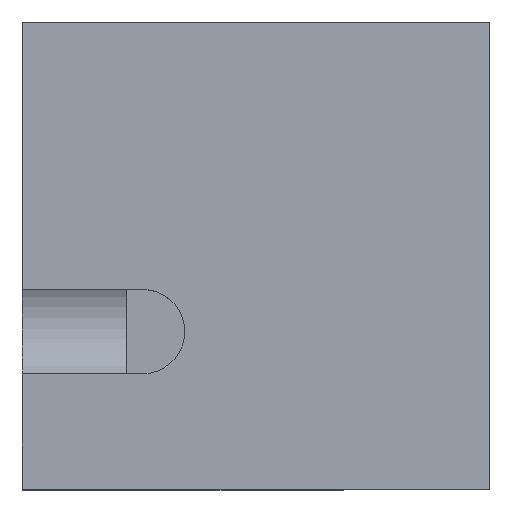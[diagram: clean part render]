
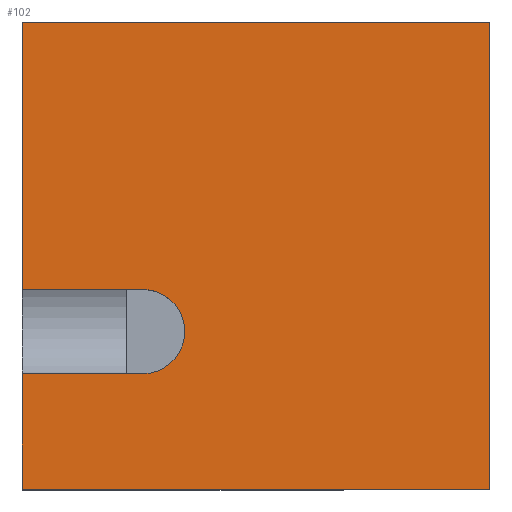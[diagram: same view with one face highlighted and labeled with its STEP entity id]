
A CAD part, top view. The second image highlights one B-rep face of the part: STEP entity #102.
In plain terms, the highlighted planar face has unit normal (0, 0, 1).
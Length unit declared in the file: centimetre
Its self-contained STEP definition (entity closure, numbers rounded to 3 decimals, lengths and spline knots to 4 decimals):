
#2 = CARTESIAN_POINT ( 'NONE',  ( 0., 247.1862, 1000. ) ) ;
#11 = DIRECTION ( 'NONE',  ( 1., 0., 0. ) ) ;
#35 = VECTOR ( 'NONE', #92, 100. ) ;
#36 = VECTOR ( 'NONE', #144, 100. ) ;
#41 = DIRECTION ( 'NONE',  ( -1., 0., 0. ) ) ;
#51 = LINE ( 'NONE', #450, #104 ) ;
#65 = CARTESIAN_POINT ( 'NONE',  ( 1000., 1000., 1000. ) ) ;
#79 = LINE ( 'NONE', #65, #263 ) ;
#80 = AXIS2_PLACEMENT_3D ( 'NONE', #135, #413, #138 ) ;
#92 = DIRECTION ( 'NONE',  ( 0., -1., 0. ) ) ;
#102 = ADVANCED_FACE ( 'NONE', ( #727 ), #742, .T. ) ;
#104 = VECTOR ( 'NONE', #576, 100. ) ;
#116 = EDGE_CURVE ( 'NONE', #845, #813, #79, .T. ) ;
#117 = LINE ( 'NONE', #509, #472 ) ;
#126 = CARTESIAN_POINT ( 'NONE',  ( 0., 1000., 1000. ) ) ;
#130 = LINE ( 'NONE', #599, #36 ) ;
#132 = ORIENTED_EDGE ( 'NONE', *, *, #605, .T. ) ;
#135 = CARTESIAN_POINT ( 'NONE',  ( 257.6555, 337.3262, 1000. ) ) ;
#138 = DIRECTION ( 'NONE',  ( 1., 0., 0. ) ) ;
#144 = DIRECTION ( 'NONE',  ( 1., 0., 0. ) ) ;
#148 = EDGE_CURVE ( 'NONE', #165, #204, #130, .T. ) ;
#152 = EDGE_CURVE ( 'NONE', #204, #325, #610, .T. ) ;
#165 = VERTEX_POINT ( 'NONE', #2 ) ;
#179 = ORIENTED_EDGE ( 'NONE', *, *, #590, .T. ) ;
#181 = ORIENTED_EDGE ( 'NONE', *, *, #630, .T. ) ;
#204 = VERTEX_POINT ( 'NONE', #280 ) ;
#255 = CARTESIAN_POINT ( 'NONE',  ( 0., 1000., 1000. ) ) ;
#263 = VECTOR ( 'NONE', #340, 100. ) ;
#264 = DIRECTION ( 'NONE',  ( 0., 0., 1. ) ) ;
#280 = CARTESIAN_POINT ( 'NONE',  ( 257.6555, 247.1862, 1000. ) ) ;
#282 = VERTEX_POINT ( 'NONE', #502 ) ;
#296 = CARTESIAN_POINT ( 'NONE',  ( 347.7956, 337.3262, 1000. ) ) ;
#302 = LINE ( 'NONE', #570, #412 ) ;
#312 = DIRECTION ( 'NONE',  ( 1., 0., 0. ) ) ;
#325 = VERTEX_POINT ( 'NONE', #296 ) ;
#339 = VECTOR ( 'NONE', #501, 100. ) ;
#340 = DIRECTION ( 'NONE',  ( 0., 1., 0. ) ) ;
#395 = VERTEX_POINT ( 'NONE', #126 ) ;
#397 = ORIENTED_EDGE ( 'NONE', *, *, #116, .T. ) ;
#407 = ORIENTED_EDGE ( 'NONE', *, *, #491, .T. ) ;
#412 = VECTOR ( 'NONE', #838, 100. ) ;
#413 = DIRECTION ( 'NONE',  ( 0., 0., 1. ) ) ;
#416 = EDGE_CURVE ( 'NONE', #325, #739, #711, .T. ) ;
#417 = EDGE_LOOP ( 'NONE', ( #860, #859, #715, #657, #132, #179, #397, #407, #181 ) ) ;
#425 = LINE ( 'NONE', #698, #35 ) ;
#450 = CARTESIAN_POINT ( 'NONE',  ( 0., 1000., 1000. ) ) ;
#472 = VECTOR ( 'NONE', #41, 100. ) ;
#491 = EDGE_CURVE ( 'NONE', #813, #395, #856, .T. ) ;
#501 = DIRECTION ( 'NONE',  ( -1., 0., 0. ) ) ;
#502 = CARTESIAN_POINT ( 'NONE',  ( 0., 427.4662, 1000. ) ) ;
#509 = CARTESIAN_POINT ( 'NONE',  ( 257.6555, 427.4662, 1000. ) ) ;
#513 = CARTESIAN_POINT ( 'NONE',  ( 257.6555, 427.4662, 1000. ) ) ;
#570 = CARTESIAN_POINT ( 'NONE',  ( 0., 0., 1000. ) ) ;
#576 = DIRECTION ( 'NONE',  ( 0., -1., 0. ) ) ;
#579 = CARTESIAN_POINT ( 'NONE',  ( 1000., 0., 1000. ) ) ;
#590 = EDGE_CURVE ( 'NONE', #613, #845, #302, .T. ) ;
#599 = CARTESIAN_POINT ( 'NONE',  ( 0., 247.1862, 1000. ) ) ;
#605 = EDGE_CURVE ( 'NONE', #165, #613, #425, .T. ) ;
#610 = CIRCLE ( 'NONE', #80, 90.14 ) ;
#613 = VERTEX_POINT ( 'NONE', #627 ) ;
#623 = AXIS2_PLACEMENT_3D ( 'NONE', #790, #647, #312 ) ;
#627 = CARTESIAN_POINT ( 'NONE',  ( 0., 0., 1000. ) ) ;
#630 = EDGE_CURVE ( 'NONE', #395, #282, #51, .T. ) ;
#641 = AXIS2_PLACEMENT_3D ( 'NONE', #737, #264, #11 ) ;
#647 = DIRECTION ( 'NONE',  ( 0., 0., 1. ) ) ;
#655 = EDGE_CURVE ( 'NONE', #739, #282, #117, .T. ) ;
#657 = ORIENTED_EDGE ( 'NONE', *, *, #148, .F. ) ;
#698 = CARTESIAN_POINT ( 'NONE',  ( 0., 1000., 1000. ) ) ;
#709 = CARTESIAN_POINT ( 'NONE',  ( 1000., 1000., 1000. ) ) ;
#711 = CIRCLE ( 'NONE', #623, 90.14 ) ;
#715 = ORIENTED_EDGE ( 'NONE', *, *, #152, .F. ) ;
#727 = FACE_OUTER_BOUND ( 'NONE', #417, .T. ) ;
#737 = CARTESIAN_POINT ( 'NONE',  ( 0., 0., 1000. ) ) ;
#739 = VERTEX_POINT ( 'NONE', #513 ) ;
#742 = PLANE ( 'NONE',  #641 ) ;
#790 = CARTESIAN_POINT ( 'NONE',  ( 257.6555, 337.3262, 1000. ) ) ;
#813 = VERTEX_POINT ( 'NONE', #709 ) ;
#838 = DIRECTION ( 'NONE',  ( 1., 0., 0. ) ) ;
#845 = VERTEX_POINT ( 'NONE', #579 ) ;
#856 = LINE ( 'NONE', #255, #339 ) ;
#859 = ORIENTED_EDGE ( 'NONE', *, *, #416, .F. ) ;
#860 = ORIENTED_EDGE ( 'NONE', *, *, #655, .F. ) ;
